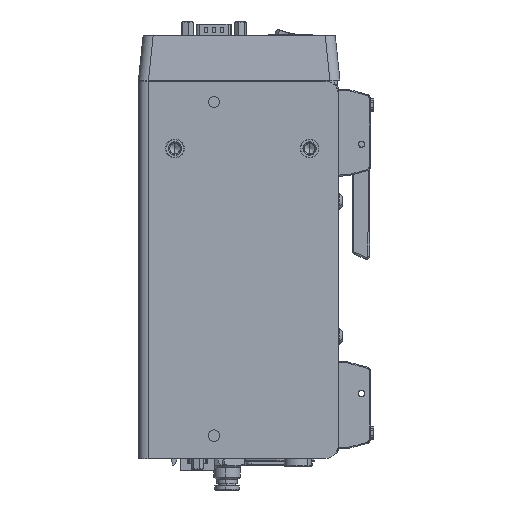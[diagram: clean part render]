
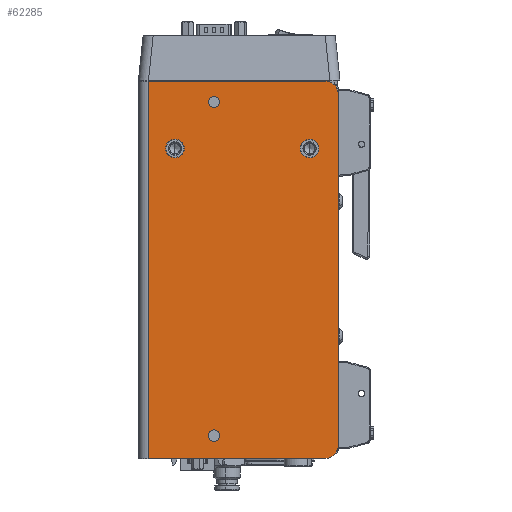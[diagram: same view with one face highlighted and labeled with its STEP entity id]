
A CAD part, left-side view. The second image highlights one B-rep face of the part: STEP entity #62285.
In plain terms, the highlighted planar face has unit normal (-1, 0, 0).
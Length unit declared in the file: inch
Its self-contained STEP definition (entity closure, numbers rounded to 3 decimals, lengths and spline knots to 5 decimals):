
#3273 = DIRECTION ( 'NONE',  ( 0., 0., 1. ) ) ;
#3575 = DIRECTION ( 'NONE',  ( -1., 0., 0. ) ) ;
#4421 = CARTESIAN_POINT ( 'NONE',  ( -5.01969, 0.90648, -3.518 ) ) ;
#8200 = VERTEX_POINT ( 'NONE', #128210 ) ;
#8871 = DIRECTION ( 'NONE',  ( -1., 0., 0. ) ) ;
#9120 = VERTEX_POINT ( 'NONE', #126181 ) ;
#10506 = DIRECTION ( 'NONE',  ( 0., 1., 0. ) ) ;
#12413 = ORIENTED_EDGE ( 'NONE', *, *, #278236, .F. ) ;
#15958 = ORIENTED_EDGE ( 'NONE', *, *, #79174, .T. ) ;
#17028 = PLANE ( 'NONE',  #219554 ) ;
#21964 = EDGE_CURVE ( 'NONE', #137704, #302211, #92181, .T. ) ;
#23029 = ORIENTED_EDGE ( 'NONE', *, *, #33362, .T. ) ;
#24323 = VECTOR ( 'NONE', #243778, 39.37008 ) ;
#31075 = CARTESIAN_POINT ( 'NONE',  ( -5.01969, 4.17858, 3.484 ) ) ;
#33362 = EDGE_CURVE ( 'NONE', #142177, #248582, #173567, .T. ) ;
#33941 = VECTOR ( 'NONE', #204879, 39.37008 ) ;
#37185 = FACE_BOUND ( 'NONE', #300628, .T. ) ;
#40091 = DIRECTION ( 'NONE',  ( -1., 0., 0. ) ) ;
#41814 = AXIS2_PLACEMENT_3D ( 'NONE', #137224, #311119, #162249 ) ;
#42289 = VERTEX_POINT ( 'NONE', #74880 ) ;
#47808 = AXIS2_PLACEMENT_3D ( 'NONE', #188898, #40091, #213894 ) ;
#53041 = CARTESIAN_POINT ( 'NONE',  ( -5.01969, 3.68748, 2.234 ) ) ;
#56602 = CARTESIAN_POINT ( 'NONE',  ( -5.01969, 1.18748, 2.234 ) ) ;
#61187 = VERTEX_POINT ( 'NONE', #153761 ) ;
#62285 = ADVANCED_FACE ( 'NONE', ( #111036, #37185, #293674, #227619, #161552 ), #17028, .T. ) ;
#64391 = CIRCLE ( 'NONE', #41814, 0.1065 ) ;
#65891 = AXIS2_PLACEMENT_3D ( 'NONE', #56602, #230462, #81639 ) ;
#66360 = ORIENTED_EDGE ( 'NONE', *, *, #267509, .F. ) ;
#66964 = DIRECTION ( 'NONE',  ( 0., 0., 1. ) ) ;
#67882 = EDGE_CURVE ( 'NONE', #302661, #142177, #216665, .T. ) ;
#70046 = CIRCLE ( 'NONE', #65891, 0.17187 ) ;
#74880 = CARTESIAN_POINT ( 'NONE',  ( -5.01969, 3.06908, -3.093 ) ) ;
#78060 = DIRECTION ( 'NONE',  ( 0., 0., 1. ) ) ;
#79174 = EDGE_CURVE ( 'NONE', #230981, #302661, #110117, .T. ) ;
#81639 = DIRECTION ( 'NONE',  ( 0., 0., 1. ) ) ;
#86958 = VERTEX_POINT ( 'NONE', #218674 ) ;
#92181 = LINE ( 'NONE', #31075, #33941 ) ;
#94655 = ORIENTED_EDGE ( 'NONE', *, *, #21964, .F. ) ;
#96855 = CARTESIAN_POINT ( 'NONE',  ( -5.01969, 0.65648, -3.518 ) ) ;
#100262 = AXIS2_PLACEMENT_3D ( 'NONE', #300923, #152103, #3273 ) ;
#110117 = CIRCLE ( 'NONE', #154974, 0.25 ) ;
#111036 = FACE_OUTER_BOUND ( 'NONE', #310246, .T. ) ;
#111817 = ORIENTED_EDGE ( 'NONE', *, *, #187312, .F. ) ;
#114723 = DIRECTION ( 'NONE',  ( -1., 0., 0. ) ) ;
#117892 = CIRCLE ( 'NONE', #125516, 0.17187 ) ;
#125516 = AXIS2_PLACEMENT_3D ( 'NONE', #163694, #292456, #143632 ) ;
#126181 = CARTESIAN_POINT ( 'NONE',  ( -5.01969, 2.85608, -3.093 ) ) ;
#128210 = CARTESIAN_POINT ( 'NONE',  ( -5.01969, 3.68748, 2.40588 ) ) ;
#130354 = CIRCLE ( 'NONE', #100262, 0.17187 ) ;
#136612 = ORIENTED_EDGE ( 'NONE', *, *, #171903, .F. ) ;
#137224 = CARTESIAN_POINT ( 'NONE',  ( -5.01969, 2.96258, -3.093 ) ) ;
#137704 = VERTEX_POINT ( 'NONE', #187917 ) ;
#142034 = ORIENTED_EDGE ( 'NONE', *, *, #67882, .T. ) ;
#142177 = VERTEX_POINT ( 'NONE', #219274 ) ;
#142732 = VECTOR ( 'NONE', #319649, 39.37008 ) ;
#143632 = DIRECTION ( 'NONE',  ( 0., 0., 1. ) ) ;
#143945 = CARTESIAN_POINT ( 'NONE',  ( -5.01969, 2.96258, -3.093 ) ) ;
#149275 = CARTESIAN_POINT ( 'NONE',  ( -5.01969, 0.65648, -3.268 ) ) ;
#151334 = EDGE_CURVE ( 'NONE', #175820, #259016, #295280, .T. ) ;
#152103 = DIRECTION ( 'NONE',  ( -1., 0., 0. ) ) ;
#152394 = CARTESIAN_POINT ( 'NONE',  ( -5.01969, 0.90648, 3.234 ) ) ;
#153761 = CARTESIAN_POINT ( 'NONE',  ( -5.01969, 1.18748, 2.06213 ) ) ;
#154974 = AXIS2_PLACEMENT_3D ( 'NONE', #263546, #114723, #288546 ) ;
#155177 = CIRCLE ( 'NONE', #281594, 0.17187 ) ;
#156218 = EDGE_CURVE ( 'NONE', #42289, #9120, #64391, .T. ) ;
#157672 = CARTESIAN_POINT ( 'NONE',  ( -5.01969, 2.96258, 3.097 ) ) ;
#161552 = FACE_BOUND ( 'NONE', #253351, .T. ) ;
#162249 = DIRECTION ( 'NONE',  ( 0., 1., 0. ) ) ;
#163694 = CARTESIAN_POINT ( 'NONE',  ( -5.01969, 3.68748, 2.234 ) ) ;
#167865 = CARTESIAN_POINT ( 'NONE',  ( -5.01969, 3.06908, 3.097 ) ) ;
#168981 = DIRECTION ( 'NONE',  ( 0., 1., 0. ) ) ;
#171903 = EDGE_CURVE ( 'NONE', #282978, #8200, #117892, .T. ) ;
#172892 = LINE ( 'NONE', #283159, #246727 ) ;
#173567 = CIRCLE ( 'NONE', #307195, 0.25 ) ;
#175820 = VERTEX_POINT ( 'NONE', #305577 ) ;
#177390 = DIRECTION ( 'NONE',  ( 0., 0., 1. ) ) ;
#182661 = DIRECTION ( 'NONE',  ( 0., 1., 0. ) ) ;
#187312 = EDGE_CURVE ( 'NONE', #8200, #282978, #155177, .T. ) ;
#187917 = CARTESIAN_POINT ( 'NONE',  ( -5.01969, 4.17858, -3.518 ) ) ;
#188898 = CARTESIAN_POINT ( 'NONE',  ( -5.01969, 2.96258, 3.097 ) ) ;
#190814 = CARTESIAN_POINT ( 'NONE',  ( -5.01969, 4.30358, -3.518 ) ) ;
#194800 = ORIENTED_EDGE ( 'NONE', *, *, #151334, .F. ) ;
#198380 = ORIENTED_EDGE ( 'NONE', *, *, #156218, .F. ) ;
#204879 = DIRECTION ( 'NONE',  ( 0., 0., 1. ) ) ;
#213894 = DIRECTION ( 'NONE',  ( 0., 1., 0. ) ) ;
#215830 = DIRECTION ( 'NONE',  ( -1., 0., 0. ) ) ;
#216665 = LINE ( 'NONE', #96855, #142732 ) ;
#218674 = CARTESIAN_POINT ( 'NONE',  ( -5.01969, 1.18748, 2.40588 ) ) ;
#218833 = CARTESIAN_POINT ( 'NONE',  ( -5.01969, 4.30358, 3.484 ) ) ;
#219138 = ORIENTED_EDGE ( 'NONE', *, *, #257092, .F. ) ;
#219274 = CARTESIAN_POINT ( 'NONE',  ( -5.01969, 0.65648, 3.234 ) ) ;
#219554 = AXIS2_PLACEMENT_3D ( 'NONE', #190814, #215830, #66964 ) ;
#223817 = EDGE_CURVE ( 'NONE', #302211, #248582, #265256, .T. ) ;
#226861 = DIRECTION ( 'NONE',  ( -1., 0., 0. ) ) ;
#227619 = FACE_BOUND ( 'NONE', #256010, .T. ) ;
#230462 = DIRECTION ( 'NONE',  ( -1., 0., 0. ) ) ;
#230981 = VERTEX_POINT ( 'NONE', #4421 ) ;
#242970 = CIRCLE ( 'NONE', #315179, 0.1065 ) ;
#243110 = AXIS2_PLACEMENT_3D ( 'NONE', #157672, #8871, #182661 ) ;
#243226 = ORIENTED_EDGE ( 'NONE', *, *, #284625, .F. ) ;
#243778 = DIRECTION ( 'NONE',  ( 0., -1., 0. ) ) ;
#244253 = EDGE_CURVE ( 'NONE', #9120, #42289, #242970, .T. ) ;
#246727 = VECTOR ( 'NONE', #10506, 39.37008 ) ;
#248582 = VERTEX_POINT ( 'NONE', #291104 ) ;
#253351 = EDGE_LOOP ( 'NONE', ( #198380, #261428 ) ) ;
#256010 = EDGE_LOOP ( 'NONE', ( #66360, #194800 ) ) ;
#257092 = EDGE_CURVE ( 'NONE', #230981, #137704, #172892, .T. ) ;
#259016 = VERTEX_POINT ( 'NONE', #167865 ) ;
#261428 = ORIENTED_EDGE ( 'NONE', *, *, #244253, .F. ) ;
#263546 = CARTESIAN_POINT ( 'NONE',  ( -5.01969, 0.90648, -3.268 ) ) ;
#265256 = LINE ( 'NONE', #218833, #24323 ) ;
#267509 = EDGE_CURVE ( 'NONE', #259016, #175820, #299001, .T. ) ;
#270300 = CARTESIAN_POINT ( 'NONE',  ( -5.01969, 4.17858, 3.484 ) ) ;
#278236 = EDGE_CURVE ( 'NONE', #86958, #61187, #70046, .T. ) ;
#279179 = EDGE_LOOP ( 'NONE', ( #12413, #243226 ) ) ;
#281594 = AXIS2_PLACEMENT_3D ( 'NONE', #53041, #226861, #78060 ) ;
#282978 = VERTEX_POINT ( 'NONE', #294414 ) ;
#283159 = CARTESIAN_POINT ( 'NONE',  ( -5.01969, 4.30358, -3.518 ) ) ;
#284625 = EDGE_CURVE ( 'NONE', #61187, #86958, #130354, .T. ) ;
#288546 = DIRECTION ( 'NONE',  ( 0., 0., 1. ) ) ;
#291104 = CARTESIAN_POINT ( 'NONE',  ( -5.01969, 0.90648, 3.484 ) ) ;
#292456 = DIRECTION ( 'NONE',  ( -1., 0., 0. ) ) ;
#293674 = FACE_BOUND ( 'NONE', #279179, .T. ) ;
#294414 = CARTESIAN_POINT ( 'NONE',  ( -5.01969, 3.68748, 2.06213 ) ) ;
#295280 = CIRCLE ( 'NONE', #243110, 0.1065 ) ;
#299001 = CIRCLE ( 'NONE', #47808, 0.1065 ) ;
#300628 = EDGE_LOOP ( 'NONE', ( #111817, #136612 ) ) ;
#300923 = CARTESIAN_POINT ( 'NONE',  ( -5.01969, 1.18748, 2.234 ) ) ;
#302211 = VERTEX_POINT ( 'NONE', #270300 ) ;
#302661 = VERTEX_POINT ( 'NONE', #149275 ) ;
#305577 = CARTESIAN_POINT ( 'NONE',  ( -5.01969, 2.85608, 3.097 ) ) ;
#307195 = AXIS2_PLACEMENT_3D ( 'NONE', #152394, #3575, #177390 ) ;
#310246 = EDGE_LOOP ( 'NONE', ( #142034, #23029, #318115, #94655, #219138, #15958 ) ) ;
#311119 = DIRECTION ( 'NONE',  ( -1., 0., 0. ) ) ;
#315179 = AXIS2_PLACEMENT_3D ( 'NONE', #143945, #317837, #168981 ) ;
#317837 = DIRECTION ( 'NONE',  ( -1., 0., 0. ) ) ;
#318115 = ORIENTED_EDGE ( 'NONE', *, *, #223817, .F. ) ;
#319649 = DIRECTION ( 'NONE',  ( 0., 0., 1. ) ) ;
